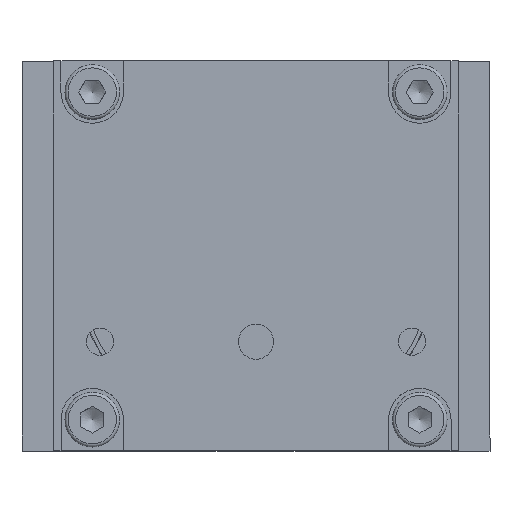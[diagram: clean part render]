
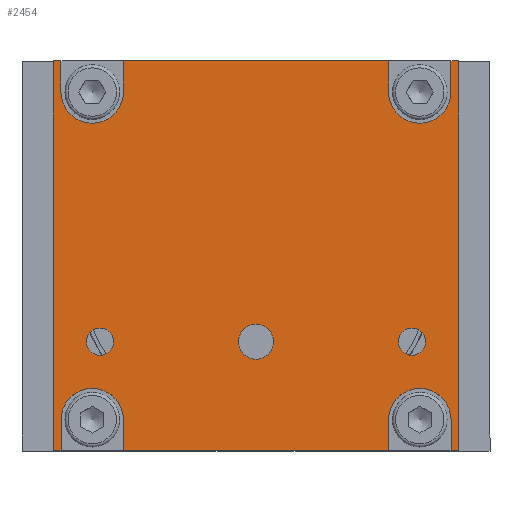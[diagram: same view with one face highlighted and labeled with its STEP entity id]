
A CAD part, top view. The second image highlights one B-rep face of the part: STEP entity #2454.
In plain terms, the highlighted planar face has unit normal (0, 0, 1).
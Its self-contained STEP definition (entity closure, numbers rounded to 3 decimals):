
#130=LINE($,#3884,#314);
#133=LINE($,#3890,#317);
#138=LINE($,#3899,#322);
#142=LINE($,#3907,#326);
#146=LINE($,#3914,#330);
#150=LINE($,#3923,#334);
#152=LINE($,#3929,#336);
#155=LINE($,#3935,#339);
#160=LINE($,#3944,#344);
#164=LINE($,#3953,#348);
#166=LINE($,#3959,#350);
#169=LINE($,#3965,#353);
#174=LINE($,#3974,#358);
#175=LINE($,#3982,#359);
#177=LINE($,#3984,#361);
#179=LINE($,#3986,#363);
#314=VECTOR($,#3135,50.);
#317=VECTOR($,#3140,50.);
#322=VECTOR($,#3147,1.);
#326=VECTOR($,#3151,34.);
#330=VECTOR($,#3155,1.);
#334=VECTOR($,#3161,4.);
#336=VECTOR($,#3165,4.);
#339=VECTOR($,#3170,4.);
#344=VECTOR($,#3177,4.);
#348=VECTOR($,#3183,4.);
#350=VECTOR($,#3187,4.);
#353=VECTOR($,#3192,4.);
#358=VECTOR($,#3199,4.);
#359=VECTOR($,#3214,1.);
#361=VECTOR($,#3216,34.);
#363=VECTOR($,#3218,1.);
#503=PLANE($,#2696);
#602=FACE_BOUND($,#935,.T.);
#603=FACE_BOUND($,#936,.T.);
#604=FACE_BOUND($,#937,.T.);
#735=FACE_OUTER_BOUND($,#934,.T.);
#934=EDGE_LOOP($,(#2111,#2112,#2113,#2114,#2115,#2116,#2117,#2118,#2119,
#2120,#2121,#2122,#2123,#2124,#2125,#2126,#2127,#2128,#2129,#2130));
#935=EDGE_LOOP($,(#2131));
#936=EDGE_LOOP($,(#2132));
#937=EDGE_LOOP($,(#2133));
#1077=CIRCLE($,#2656,4.);
#1079=CIRCLE($,#2659,4.);
#1081=CIRCLE($,#2663,4.);
#1083=CIRCLE($,#2666,4.);
#1088=CIRCLE($,#2674,2.25);
#1091=CIRCLE($,#2680,1.75);
#1094=CIRCLE($,#2686,1.75);
#1245=VERTEX_POINT($,#3881);
#1246=VERTEX_POINT($,#3883);
#1247=VERTEX_POINT($,#3887);
#1248=VERTEX_POINT($,#3889);
#1251=VERTEX_POINT($,#3898);
#1254=VERTEX_POINT($,#3904);
#1255=VERTEX_POINT($,#3906);
#1258=VERTEX_POINT($,#3912);
#1260=VERTEX_POINT($,#3917);
#1262=VERTEX_POINT($,#3921);
#1263=VERTEX_POINT($,#3925);
#1265=VERTEX_POINT($,#3928);
#1267=VERTEX_POINT($,#3934);
#1270=VERTEX_POINT($,#3942);
#1272=VERTEX_POINT($,#3947);
#1274=VERTEX_POINT($,#3951);
#1275=VERTEX_POINT($,#3955);
#1277=VERTEX_POINT($,#3958);
#1279=VERTEX_POINT($,#3964);
#1282=VERTEX_POINT($,#3972);
#1288=VERTEX_POINT($,#4007);
#1291=VERTEX_POINT($,#4016);
#1294=VERTEX_POINT($,#4025);
#1518=EDGE_CURVE($,#1246,#1245,#130,.T.);
#1521=EDGE_CURVE($,#1248,#1247,#133,.T.);
#1526=EDGE_CURVE($,#1251,#1248,#138,.T.);
#1530=EDGE_CURVE($,#1255,#1254,#142,.T.);
#1534=EDGE_CURVE($,#1245,#1258,#146,.T.);
#1538=EDGE_CURVE($,#1260,#1262,#150,.T.);
#1540=EDGE_CURVE($,#1265,#1263,#152,.T.);
#1543=EDGE_CURVE($,#1267,#1251,#155,.T.);
#1548=EDGE_CURVE($,#1254,#1270,#160,.T.);
#1552=EDGE_CURVE($,#1272,#1274,#164,.T.);
#1554=EDGE_CURVE($,#1277,#1275,#166,.T.);
#1557=EDGE_CURVE($,#1279,#1255,#169,.T.);
#1562=EDGE_CURVE($,#1258,#1282,#174,.T.);
#1563=EDGE_CURVE($,#1262,#1265,#1077,.T.);
#1565=EDGE_CURVE($,#1270,#1267,#1079,.T.);
#1567=EDGE_CURVE($,#1275,#1246,#175,.T.);
#1569=EDGE_CURVE($,#1263,#1272,#177,.T.);
#1571=EDGE_CURVE($,#1247,#1260,#179,.T.);
#1575=EDGE_CURVE($,#1274,#1277,#1081,.T.);
#1577=EDGE_CURVE($,#1282,#1279,#1083,.T.);
#1582=EDGE_CURVE($,#1288,#1288,#1088,.T.);
#1585=EDGE_CURVE($,#1291,#1291,#1091,.T.);
#1588=EDGE_CURVE($,#1294,#1294,#1094,.T.);
#2111=ORIENTED_EDGE($,*,*,#1518,.T.);
#2112=ORIENTED_EDGE($,*,*,#1534,.T.);
#2113=ORIENTED_EDGE($,*,*,#1562,.T.);
#2114=ORIENTED_EDGE($,*,*,#1577,.T.);
#2115=ORIENTED_EDGE($,*,*,#1557,.T.);
#2116=ORIENTED_EDGE($,*,*,#1530,.T.);
#2117=ORIENTED_EDGE($,*,*,#1548,.T.);
#2118=ORIENTED_EDGE($,*,*,#1565,.T.);
#2119=ORIENTED_EDGE($,*,*,#1543,.T.);
#2120=ORIENTED_EDGE($,*,*,#1526,.T.);
#2121=ORIENTED_EDGE($,*,*,#1521,.T.);
#2122=ORIENTED_EDGE($,*,*,#1571,.T.);
#2123=ORIENTED_EDGE($,*,*,#1538,.T.);
#2124=ORIENTED_EDGE($,*,*,#1563,.T.);
#2125=ORIENTED_EDGE($,*,*,#1540,.T.);
#2126=ORIENTED_EDGE($,*,*,#1569,.T.);
#2127=ORIENTED_EDGE($,*,*,#1552,.T.);
#2128=ORIENTED_EDGE($,*,*,#1575,.T.);
#2129=ORIENTED_EDGE($,*,*,#1554,.T.);
#2130=ORIENTED_EDGE($,*,*,#1567,.T.);
#2131=ORIENTED_EDGE($,*,*,#1582,.T.);
#2132=ORIENTED_EDGE($,*,*,#1585,.T.);
#2133=ORIENTED_EDGE($,*,*,#1588,.T.);
#2454=ADVANCED_FACE($,(#735,#602,#603,#604),#503,.T.);
#2656=AXIS2_PLACEMENT_3D($,#3976,#3202,#3203);
#2659=AXIS2_PLACEMENT_3D($,#3979,#3208,#3209);
#2663=AXIS2_PLACEMENT_3D($,#3993,#3224,#3225);
#2666=AXIS2_PLACEMENT_3D($,#3996,#3230,#3231);
#2674=AXIS2_PLACEMENT_3D($,#4008,#3246,#3247);
#2680=AXIS2_PLACEMENT_3D($,#4017,#3258,#3259);
#2686=AXIS2_PLACEMENT_3D($,#4026,#3270,#3271);
#2696=AXIS2_PLACEMENT_3D($,#4040,#3292,#3293);
#3135=DIRECTION($,(0.,1.,0.));
#3140=DIRECTION($,(0.,-1.,0.));
#3147=DIRECTION($,(-1.,0.,0.));
#3151=DIRECTION($,(-1.,0.,0.));
#3155=DIRECTION($,(-1.,0.,0.));
#3161=DIRECTION($,(0.,1.,0.));
#3165=DIRECTION($,(0.,-1.,0.));
#3170=DIRECTION($,(0.,1.,0.));
#3177=DIRECTION($,(0.,-1.,0.));
#3183=DIRECTION($,(0.,1.,0.));
#3187=DIRECTION($,(0.,-1.,0.));
#3192=DIRECTION($,(0.,1.,0.));
#3199=DIRECTION($,(0.,-1.,0.));
#3202=DIRECTION('center_axis',(0.,0.,
-1.));
#3203=DIRECTION('ref_axis',(0.,-1.,0.));
#3208=DIRECTION('center_axis',(0.,0.,
-1.));
#3209=DIRECTION('ref_axis',(0.,-1.,0.));
#3214=DIRECTION($,(1.,0.,0.));
#3216=DIRECTION($,(1.,0.,0.));
#3218=DIRECTION($,(1.,0.,0.));
#3224=DIRECTION('center_axis',(0.,0.,
-1.));
#3225=DIRECTION('ref_axis',(0.,-1.,0.));
#3230=DIRECTION('center_axis',(0.,0.,
-1.));
#3231=DIRECTION('ref_axis',(0.,-1.,0.));
#3246=DIRECTION('center_axis',(0.,0.,
-1.));
#3247=DIRECTION('ref_axis',(0.,1.,0.));
#3258=DIRECTION('center_axis',(0.,0.,
-1.));
#3259=DIRECTION('ref_axis',(0.,1.,0.));
#3270=DIRECTION('center_axis',(0.,0.,
-1.));
#3271=DIRECTION('ref_axis',(0.,1.,0.));
#3292=DIRECTION('center_axis',(0.,0.,
1.));
#3293=DIRECTION('ref_axis',(0.,-1.,0.));
#3881=CARTESIAN_POINT('',(76.887,161.854,-1.));
#3883=CARTESIAN_POINT('',(76.887,111.854,-1.));
#3884=CARTESIAN_POINT($,(76.887,124.354,-1.));
#3887=CARTESIAN_POINT('',(24.887,111.854,-1.));
#3889=CARTESIAN_POINT('',(24.887,161.854,-1.));
#3890=CARTESIAN_POINT($,(24.887,149.354,-1.));
#3898=CARTESIAN_POINT('',(25.887,161.854,-1.));
#3899=CARTESIAN_POINT($,(80.887,161.854,-1.));
#3904=CARTESIAN_POINT('',(33.887,161.854,-1.));
#3906=CARTESIAN_POINT('',(67.887,161.854,-1.));
#3907=CARTESIAN_POINT($,(80.887,161.854,-1.));
#3912=CARTESIAN_POINT('',(75.887,161.854,-1.));
#3914=CARTESIAN_POINT($,(80.887,161.854,-1.));
#3917=CARTESIAN_POINT('',(25.887,111.854,-1.));
#3921=CARTESIAN_POINT('',(25.887,115.854,-1.));
#3923=CARTESIAN_POINT($,(25.887,120.201,-1.));
#3925=CARTESIAN_POINT('',(33.887,111.854,-1.));
#3928=CARTESIAN_POINT('',(33.887,115.854,-1.));
#3929=CARTESIAN_POINT($,(33.887,126.354,-1.));
#3934=CARTESIAN_POINT('',(25.887,157.854,-1.));
#3935=CARTESIAN_POINT($,(25.887,147.354,-1.));
#3942=CARTESIAN_POINT('',(33.887,157.854,-1.));
#3944=CARTESIAN_POINT($,(33.887,152.926,-1.));
#3947=CARTESIAN_POINT('',(67.887,111.854,-1.));
#3951=CARTESIAN_POINT('',(67.887,115.854,-1.));
#3953=CARTESIAN_POINT($,(67.887,120.898,-1.));
#3955=CARTESIAN_POINT('',(75.887,111.854,-1.));
#3958=CARTESIAN_POINT('',(75.887,115.854,-1.));
#3959=CARTESIAN_POINT($,(75.887,126.354,-1.));
#3964=CARTESIAN_POINT('',(67.887,157.854,-1.));
#3965=CARTESIAN_POINT($,(67.887,147.354,-1.));
#3972=CARTESIAN_POINT('',(75.887,157.854,-1.));
#3974=CARTESIAN_POINT($,(75.887,152.926,-1.));
#3976=CARTESIAN_POINT('Origin',(29.887,115.854,-1.));
#3979=CARTESIAN_POINT('Origin',(29.887,157.854,-1.));
#3982=CARTESIAN_POINT($,(20.887,111.854,-1.));
#3984=CARTESIAN_POINT($,(20.887,111.854,-1.));
#3986=CARTESIAN_POINT($,(20.887,111.854,-1.));
#3993=CARTESIAN_POINT('Origin',(71.887,115.854,-1.));
#3996=CARTESIAN_POINT('Origin',(71.887,157.854,-1.));
#4007=CARTESIAN_POINT('',(50.887,123.604,-1.));
#4008=CARTESIAN_POINT('Origin',(50.887,125.854,-1.));
#4016=CARTESIAN_POINT('',(70.887,124.104,-1.));
#4017=CARTESIAN_POINT('Origin',(70.887,125.854,-1.));
#4025=CARTESIAN_POINT('',(30.887,124.104,-1.));
#4026=CARTESIAN_POINT('Origin',(30.887,125.854,-1.));
#4040=CARTESIAN_POINT('Origin',(50.887,136.854,-1.));
